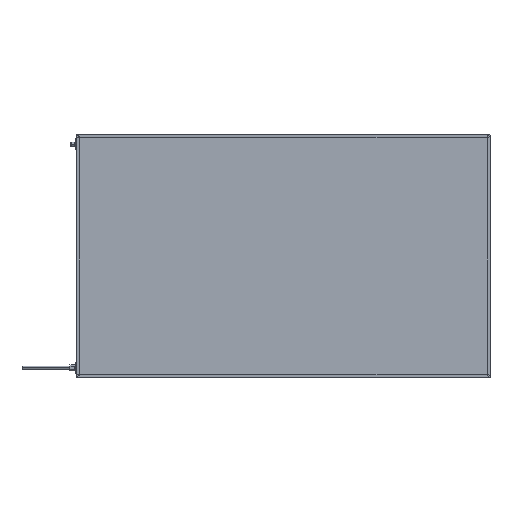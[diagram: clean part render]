
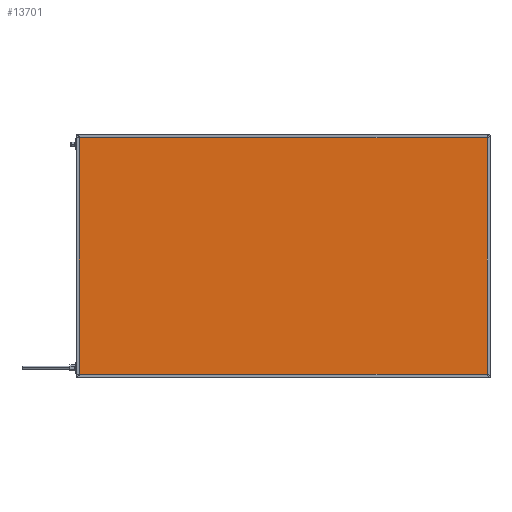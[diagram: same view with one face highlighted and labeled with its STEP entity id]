
A CAD part, top view. The second image highlights one B-rep face of the part: STEP entity #13701.
In plain terms, the highlighted planar face has unit normal (0, 0, 1).
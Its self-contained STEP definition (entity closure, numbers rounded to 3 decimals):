
#563 = EDGE_CURVE ( 'NONE', #10554, #5029, #13073, .T. ) ;
#694 = LINE ( 'NONE', #16021, #17858 ) ;
#1109 = PLANE ( 'NONE',  #2151 ) ;
#1167 = DIRECTION ( 'NONE',  ( -1., 0., 0. ) ) ;
#2151 = AXIS2_PLACEMENT_3D ( 'NONE', #2569, #2155, #12516 ) ;
#2155 = DIRECTION ( 'NONE',  ( 0., 0., -1. ) ) ;
#2569 = CARTESIAN_POINT ( 'NONE',  ( 0., 0., 41.85 ) ) ;
#3766 = ORIENTED_EDGE ( 'NONE', *, *, #12659, .T. ) ;
#5029 = VERTEX_POINT ( 'NONE', #12596 ) ;
#5466 = LINE ( 'NONE', #8097, #16062 ) ;
#6151 = CARTESIAN_POINT ( 'NONE',  ( 0., 4., 41.85 ) ) ;
#6472 = CARTESIAN_POINT ( 'NONE',  ( 4., 696., 41.85 ) ) ;
#7556 = EDGE_CURVE ( 'NONE', #9946, #10554, #14774, .T. ) ;
#8097 = CARTESIAN_POINT ( 'NONE',  ( 0., 696., 41.85 ) ) ;
#8374 = VECTOR ( 'NONE', #11706, 1000. ) ;
#8475 = CARTESIAN_POINT ( 'NONE',  ( 1196., 696., 41.85 ) ) ;
#8623 = CARTESIAN_POINT ( 'NONE',  ( 4., 4., 41.85 ) ) ;
#8998 = DIRECTION ( 'NONE',  ( 0., 1., 0. ) ) ;
#9512 = ORIENTED_EDGE ( 'NONE', *, *, #9998, .T. ) ;
#9946 = VERTEX_POINT ( 'NONE', #6472 ) ;
#9998 = EDGE_CURVE ( 'NONE', #13965, #9946, #5466, .T. ) ;
#10554 = VERTEX_POINT ( 'NONE', #8623 ) ;
#10572 = EDGE_LOOP ( 'NONE', ( #3766, #9512, #15166, #11441 ) ) ;
#11441 = ORIENTED_EDGE ( 'NONE', *, *, #563, .T. ) ;
#11706 = DIRECTION ( 'NONE',  ( 1., 0., 0. ) ) ;
#12315 = VECTOR ( 'NONE', #14598, 1000. ) ;
#12516 = DIRECTION ( 'NONE',  ( -1., 0., 0. ) ) ;
#12596 = CARTESIAN_POINT ( 'NONE',  ( 1196., 4., 41.85 ) ) ;
#12659 = EDGE_CURVE ( 'NONE', #5029, #13965, #694, .T. ) ;
#13041 = CARTESIAN_POINT ( 'NONE',  ( 4., 0., 41.85 ) ) ;
#13073 = LINE ( 'NONE', #6151, #8374 ) ;
#13701 = ADVANCED_FACE ( 'NONE', ( #15085 ), #1109, .F. ) ;
#13965 = VERTEX_POINT ( 'NONE', #8475 ) ;
#14598 = DIRECTION ( 'NONE',  ( 0., -1., 0. ) ) ;
#14774 = LINE ( 'NONE', #13041, #12315 ) ;
#15085 = FACE_OUTER_BOUND ( 'NONE', #10572, .T. ) ;
#15166 = ORIENTED_EDGE ( 'NONE', *, *, #7556, .T. ) ;
#16021 = CARTESIAN_POINT ( 'NONE',  ( 1196., 0., 41.85 ) ) ;
#16062 = VECTOR ( 'NONE', #1167, 1000. ) ;
#17858 = VECTOR ( 'NONE', #8998, 1000. ) ;
